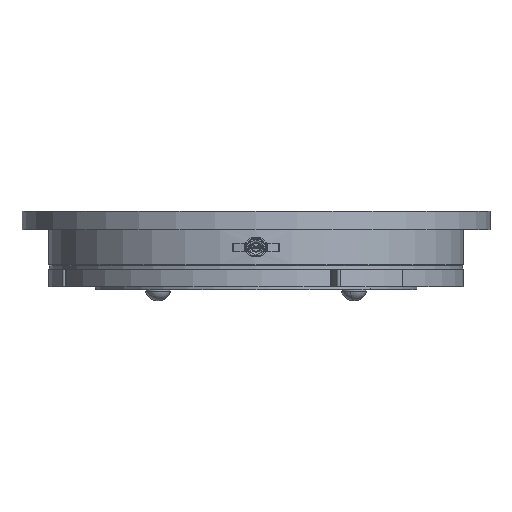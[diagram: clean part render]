
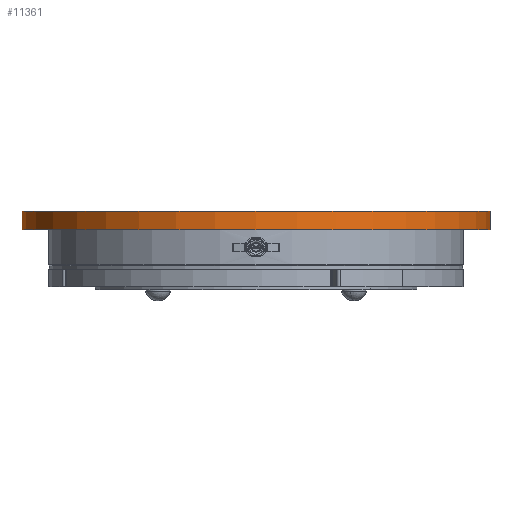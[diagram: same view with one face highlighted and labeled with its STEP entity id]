
A CAD part, front view. The second image highlights one B-rep face of the part: STEP entity #11361.
In plain terms, the highlighted cylindrical face has radius 177.5 mm (diameter 355 mm), a partial arc.
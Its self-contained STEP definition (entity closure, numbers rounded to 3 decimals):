
#334 = AXIS2_PLACEMENT_3D ( 'NONE', #3762, #14815, #13691 ) ;
#356 = ORIENTED_EDGE ( 'NONE', *, *, #7158, .T. ) ;
#837 = CARTESIAN_POINT ( 'NONE',  ( 177.5, 0., -28.143 ) ) ;
#1010 = DIRECTION ( 'NONE',  ( 0., 0., -1. ) ) ;
#1170 = LINE ( 'NONE', #6828, #6454 ) ;
#2623 = ORIENTED_EDGE ( 'NONE', *, *, #4497, .T. ) ;
#3762 = CARTESIAN_POINT ( 'NONE',  ( 0., 0., 0. ) ) ;
#4497 = EDGE_CURVE ( 'NONE', #13822, #13618, #17134, .T. ) ;
#4740 = AXIS2_PLACEMENT_3D ( 'NONE', #13902, #1010, #17848 ) ;
#5452 = FACE_OUTER_BOUND ( 'NONE', #6097, .T. ) ;
#6097 = EDGE_LOOP ( 'NONE', ( #12321, #2623, #356, #10939 ) ) ;
#6454 = VECTOR ( 'NONE', #6503, 1000. ) ;
#6503 = DIRECTION ( 'NONE',  ( 0., 0., -1. ) ) ;
#6828 = CARTESIAN_POINT ( 'NONE',  ( -177.5, 0., -28.143 ) ) ;
#7158 = EDGE_CURVE ( 'NONE', #13618, #12192, #1170, .T. ) ;
#7539 = CARTESIAN_POINT ( 'NONE',  ( -177.5, 0., 0. ) ) ;
#8526 = EDGE_CURVE ( 'NONE', #9729, #12192, #16221, .T. ) ;
#8656 = DIRECTION ( 'NONE',  ( 0., 0., -1. ) ) ;
#9729 = VERTEX_POINT ( 'NONE', #11374 ) ;
#10097 = CARTESIAN_POINT ( 'NONE',  ( 0., 0., -14. ) ) ;
#10753 = LINE ( 'NONE', #837, #17999 ) ;
#10939 = ORIENTED_EDGE ( 'NONE', *, *, #8526, .F. ) ;
#11006 = EDGE_CURVE ( 'NONE', #13822, #9729, #10753, .T. ) ;
#11361 = ADVANCED_FACE ( 'NONE', ( #5452 ), #13713, .T. ) ;
#11374 = CARTESIAN_POINT ( 'NONE',  ( 177.5, 0., -14. ) ) ;
#11685 = AXIS2_PLACEMENT_3D ( 'NONE', #10097, #8656, #15704 ) ;
#12192 = VERTEX_POINT ( 'NONE', #14185 ) ;
#12321 = ORIENTED_EDGE ( 'NONE', *, *, #11006, .F. ) ;
#12924 = CARTESIAN_POINT ( 'NONE',  ( 177.5, 0., 0. ) ) ;
#13197 = DIRECTION ( 'NONE',  ( 0., 0., -1. ) ) ;
#13618 = VERTEX_POINT ( 'NONE', #7539 ) ;
#13691 = DIRECTION ( 'NONE',  ( -1., 0., 0. ) ) ;
#13713 = CYLINDRICAL_SURFACE ( 'NONE', #4740, 177.5 ) ;
#13822 = VERTEX_POINT ( 'NONE', #12924 ) ;
#13902 = CARTESIAN_POINT ( 'NONE',  ( 0., 0., -28.143 ) ) ;
#14185 = CARTESIAN_POINT ( 'NONE',  ( -177.5, 0., -14. ) ) ;
#14815 = DIRECTION ( 'NONE',  ( 0., 0., -1. ) ) ;
#15704 = DIRECTION ( 'NONE',  ( -1., 0., 0. ) ) ;
#16221 = CIRCLE ( 'NONE', #11685, 177.5 ) ;
#17134 = CIRCLE ( 'NONE', #334, 177.5 ) ;
#17848 = DIRECTION ( 'NONE',  ( -1., 0., 0. ) ) ;
#17999 = VECTOR ( 'NONE', #13197, 1000. ) ;
